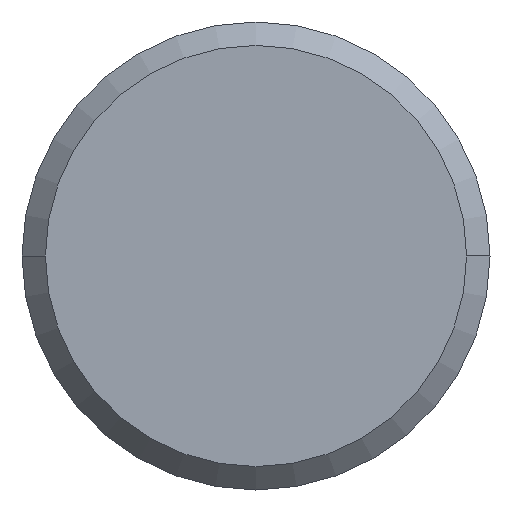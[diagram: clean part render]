
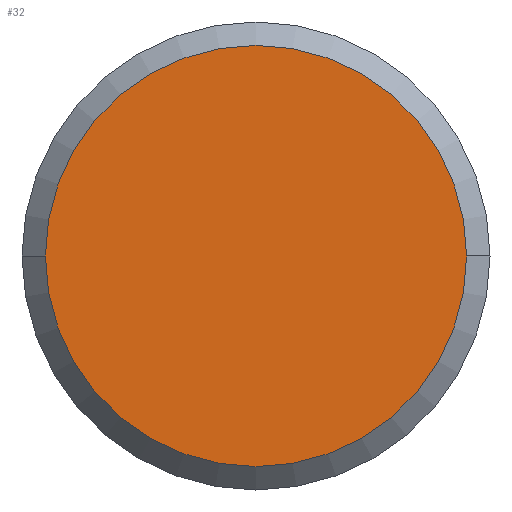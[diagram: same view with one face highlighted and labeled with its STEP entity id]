
A CAD part, left-side view. The second image highlights one B-rep face of the part: STEP entity #32.
In plain terms, the highlighted planar face has unit normal (-1, 0, 0).
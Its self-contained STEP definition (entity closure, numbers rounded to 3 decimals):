
#7 = AXIS2_PLACEMENT_3D ( 'NONE', #38, #447, #237 ) ;
#32 = ADVANCED_FACE ( 'NONE', ( #390 ), #482, .T. ) ;
#38 = CARTESIAN_POINT ( 'NONE',  ( -40., 0., 0. ) ) ;
#53 = EDGE_LOOP ( 'NONE', ( #352, #62 ) ) ;
#62 = ORIENTED_EDGE ( 'NONE', *, *, #211, .F. ) ;
#76 = AXIS2_PLACEMENT_3D ( 'NONE', #393, #515, #103 ) ;
#103 = DIRECTION ( 'NONE',  ( 0., 1., 0. ) ) ;
#131 = DIRECTION ( 'NONE',  ( 0., 1., 0. ) ) ;
#138 = VERTEX_POINT ( 'NONE', #249 ) ;
#139 = CIRCLE ( 'NONE', #76, 4.5 ) ;
#156 = CARTESIAN_POINT ( 'NONE',  ( -40., 0., 0. ) ) ;
#197 = CIRCLE ( 'NONE', #406, 4.5 ) ;
#211 = EDGE_CURVE ( 'NONE', #138, #405, #197, .T. ) ;
#237 = DIRECTION ( 'NONE',  ( 0., -1., 0. ) ) ;
#249 = CARTESIAN_POINT ( 'NONE',  ( -40., -4.5, 0. ) ) ;
#341 = DIRECTION ( 'NONE',  ( 1., 0., 0. ) ) ;
#352 = ORIENTED_EDGE ( 'NONE', *, *, #446, .F. ) ;
#390 = FACE_OUTER_BOUND ( 'NONE', #53, .T. ) ;
#393 = CARTESIAN_POINT ( 'NONE',  ( -40., 0., 0. ) ) ;
#405 = VERTEX_POINT ( 'NONE', #490 ) ;
#406 = AXIS2_PLACEMENT_3D ( 'NONE', #156, #341, #131 ) ;
#446 = EDGE_CURVE ( 'NONE', #405, #138, #139, .T. ) ;
#447 = DIRECTION ( 'NONE',  ( -1., 0., 0. ) ) ;
#482 = PLANE ( 'NONE',  #7 ) ;
#490 = CARTESIAN_POINT ( 'NONE',  ( -40., 4.5, 0. ) ) ;
#515 = DIRECTION ( 'NONE',  ( 1., 0., 0. ) ) ;
